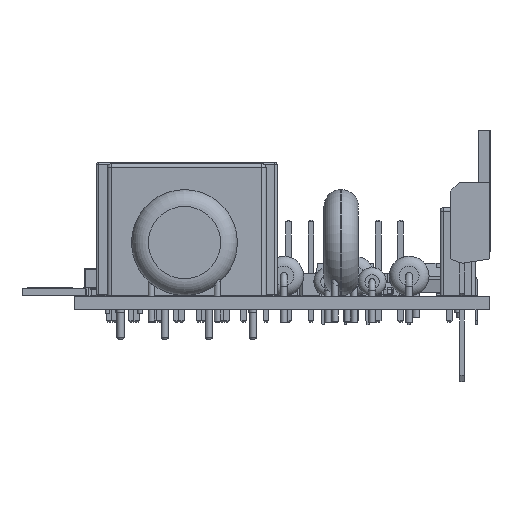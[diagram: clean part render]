
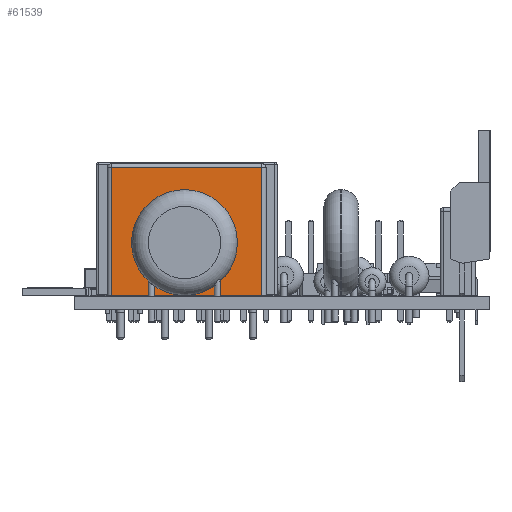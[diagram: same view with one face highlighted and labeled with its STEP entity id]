
A CAD part, left-side view. The second image highlights one B-rep face of the part: STEP entity #61539.
In plain terms, the highlighted planar face has unit normal (-1, 0, 0) as drawn and (0, -1, 0) by its records, which use the part's own axes.
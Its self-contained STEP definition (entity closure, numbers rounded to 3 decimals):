
#61356 = VERTEX_POINT('',#61357);
#61357 = CARTESIAN_POINT('',(-1.,-2.5,0.));
#61364 = EDGE_CURVE('',#61356,#61365,#61367,.T.);
#61365 = VERTEX_POINT('',#61366);
#61366 = CARTESIAN_POINT('',(-1.,-2.5,14.5));
#61367 = LINE('',#61368,#61369);
#61368 = CARTESIAN_POINT('',(-1.,-2.5,0.));
#61369 = VECTOR('',#61370,1.);
#61370 = DIRECTION('',(0.,0.,1.));
#61422 = EDGE_CURVE('',#61356,#61423,#61425,.T.);
#61423 = VERTEX_POINT('',#61424);
#61424 = CARTESIAN_POINT('',(16.,-2.5,0.));
#61425 = LINE('',#61426,#61427);
#61426 = CARTESIAN_POINT('',(-1.5,-2.5,0.));
#61427 = VECTOR('',#61428,1.);
#61428 = DIRECTION('',(1.,0.,0.));
#61539 = ADVANCED_FACE('',(#61540),#61558,.F.);
#61540 = FACE_BOUND('',#61541,.F.);
#61541 = EDGE_LOOP('',(#61542,#61543,#61551,#61557));
#61542 = ORIENTED_EDGE('',*,*,#61364,.T.);
#61543 = ORIENTED_EDGE('',*,*,#61544,.T.);
#61544 = EDGE_CURVE('',#61365,#61545,#61547,.T.);
#61545 = VERTEX_POINT('',#61546);
#61546 = CARTESIAN_POINT('',(16.,-2.5,14.5));
#61547 = LINE('',#61548,#61549);
#61548 = CARTESIAN_POINT('',(-1.,-2.5,14.5));
#61549 = VECTOR('',#61550,1.);
#61550 = DIRECTION('',(1.,0.,0.));
#61551 = ORIENTED_EDGE('',*,*,#61552,.F.);
#61552 = EDGE_CURVE('',#61423,#61545,#61553,.T.);
#61553 = LINE('',#61554,#61555);
#61554 = CARTESIAN_POINT('',(16.,-2.5,0.));
#61555 = VECTOR('',#61556,1.);
#61556 = DIRECTION('',(0.,0.,1.));
#61557 = ORIENTED_EDGE('',*,*,#61422,.F.);
#61558 = PLANE('',#61559);
#61559 = AXIS2_PLACEMENT_3D('',#61560,#61561,#61562);
#61560 = CARTESIAN_POINT('',(-1.5,-2.5,0.));
#61561 = DIRECTION('',(0.,1.,0.));
#61562 = DIRECTION('',(0.,-0.,1.));
